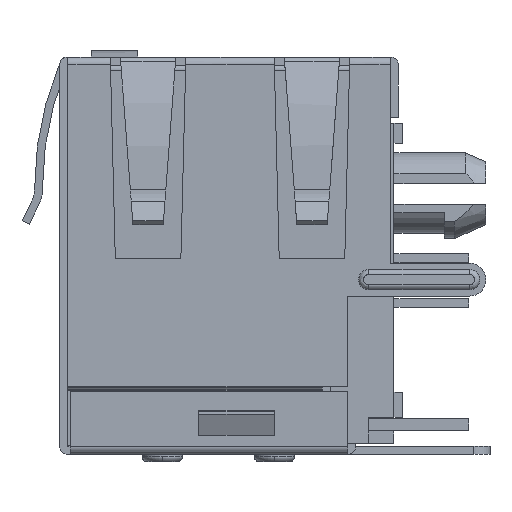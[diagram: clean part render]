
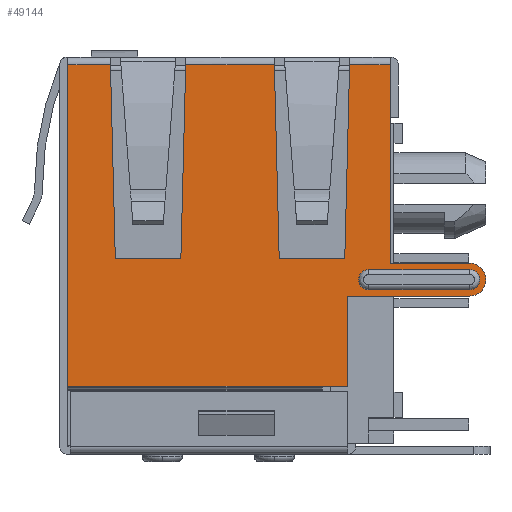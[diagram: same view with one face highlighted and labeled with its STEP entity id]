
A CAD part, left-side view. The second image highlights one B-rep face of the part: STEP entity #49144.
In plain terms, the highlighted planar face has unit normal (-1, 0, 0).
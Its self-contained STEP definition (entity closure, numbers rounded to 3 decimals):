
#318=CARTESIAN_POINT('',(-31.9,-3.,-8.51));
#319=DIRECTION('',(1.,0.,0.));
#320=DIRECTION('',(0.,0.,1.));
#321=AXIS2_PLACEMENT_3D('',#318,#319,#320);
#323=DIRECTION('',(0.,-0.025,-1.));
#324=VECTOR('',#323,7.702);
#325=CARTESIAN_POINT('',(-31.9,11.243,0.02));
#326=LINE('',#325,#324);
#327=DIRECTION('',(0.,-0.025,1.));
#328=VECTOR('',#327,7.702);
#329=CARTESIAN_POINT('',(-31.9,8.45,-7.68));
#330=LINE('',#329,#328);
#331=DIRECTION('',(0.,-0.025,-1.));
#332=VECTOR('',#331,7.702);
#333=CARTESIAN_POINT('',(-31.9,4.743,0.02));
#334=LINE('',#333,#332);
#335=DIRECTION('',(0.,-0.025,1.));
#336=VECTOR('',#335,7.702);
#337=CARTESIAN_POINT('',(-31.9,1.95,-7.68));
#338=LINE('',#337,#336);
#339=CARTESIAN_POINT('',(-31.9,-3.,-8.51));
#340=DIRECTION('',(-1.,0.,0.));
#341=DIRECTION('',(0.,0.,-1.));
#342=AXIS2_PLACEMENT_3D('',#339,#340,#341);
#344=CARTESIAN_POINT('',(-31.9,1.,-8.51));
#345=DIRECTION('',(-1.,0.,0.));
#346=DIRECTION('',(0.,0.,1.));
#347=AXIS2_PLACEMENT_3D('',#344,#345,#346);
#357=DIRECTION('',(0.,0.,1.));
#358=VECTOR('',#357,7.88);
#359=CARTESIAN_POINT('',(-31.9,0.15,-7.86));
#360=LINE('',#359,#358);
#1422=DIRECTION('',(0.,0.,-1.));
#1423=VECTOR('',#1422,12.763);
#1424=CARTESIAN_POINT('',(-31.9,12.93,0.02));
#1425=LINE('',#1424,#1423);
#1426=DIRECTION('',(0.,1.,0.));
#1427=VECTOR('',#1426,10.08);
#1428=CARTESIAN_POINT('',(-31.9,2.85,-12.743));
#1429=LINE('',#1428,#1427);
#1517=DIRECTION('',(0.,1.,0.));
#1518=VECTOR('',#1517,2.6);
#1519=CARTESIAN_POINT('',(-31.9,1.95,-7.68));
#1520=LINE('',#1519,#1518);
#1552=DIRECTION('',(0.,-1.,0.));
#1553=VECTOR('',#1552,3.515);
#1554=CARTESIAN_POINT('',(-31.9,8.258,0.02));
#1555=LINE('',#1554,#1553);
#1570=DIRECTION('',(0.,-1.,0.));
#1571=VECTOR('',#1570,2.6);
#1572=CARTESIAN_POINT('',(-31.9,11.05,-7.68));
#1573=LINE('',#1572,#1571);
#1594=DIRECTION('',(0.,-1.,0.));
#1595=VECTOR('',#1594,1.687);
#1596=CARTESIAN_POINT('',(-31.9,12.93,0.02));
#1597=LINE('',#1596,#1595);
#1793=DIRECTION('',(0.,-1.,0.));
#1794=VECTOR('',#1793,1.);
#1795=CARTESIAN_POINT('',(-31.9,2.85,-12.743));
#1796=LINE('',#1795,#1794);
#1805=DIRECTION('',(0.,0.,1.));
#1806=VECTOR('',#1805,3.583);
#1807=CARTESIAN_POINT('',(-31.9,1.85,-12.743));
#1808=LINE('',#1807,#1806);
#1813=DIRECTION('',(0.,-1.,0.));
#1814=VECTOR('',#1813,4.85);
#1815=CARTESIAN_POINT('',(-31.9,1.85,-9.16));
#1816=LINE('',#1815,#1814);
#1833=DIRECTION('',(0.,1.,0.));
#1834=VECTOR('',#1833,3.15);
#1835=CARTESIAN_POINT('',(-31.9,-3.,-7.86));
#1836=LINE('',#1835,#1834);
#36792=CARTESIAN_POINT('',(-31.9,1.757,0.02));
#36798=DIRECTION('',(0.,-1.,0.));
#36799=VECTOR('',#36798,1.607);
#36800=CARTESIAN_POINT('',(-31.9,1.757,0.02));
#36801=LINE('',#36800,#36799);
#36812=DIRECTION('',(0.,1.,0.));
#36813=VECTOR('',#36812,4.);
#36814=CARTESIAN_POINT('',(-31.9,-3.,-8.11));
#36815=LINE('',#36814,#36813);
#36834=DIRECTION('',(0.,-1.,0.));
#36835=VECTOR('',#36834,4.);
#36836=CARTESIAN_POINT('',(-31.9,1.,-8.91));
#36837=LINE('',#36836,#36835);
#37657=VERTEX_POINT('',#36792);
#37660=CARTESIAN_POINT('',(-31.9,0.15,0.02));
#37661=VERTEX_POINT('',#37660);
#38104=CARTESIAN_POINT('',(-31.9,0.15,-7.86));
#38105=VERTEX_POINT('',#38104);
#38106=CARTESIAN_POINT('',(-31.9,1.95,-7.68));
#38107=VERTEX_POINT('',#38106);
#38108=CARTESIAN_POINT('',(-31.9,4.55,-7.68));
#38109=VERTEX_POINT('',#38108);
#38110=CARTESIAN_POINT('',(-31.9,4.743,0.02));
#38111=VERTEX_POINT('',#38110);
#38112=CARTESIAN_POINT('',(-31.9,8.258,0.02));
#38113=VERTEX_POINT('',#38112);
#38114=CARTESIAN_POINT('',(-31.9,8.45,-7.68));
#38115=VERTEX_POINT('',#38114);
#38116=CARTESIAN_POINT('',(-31.9,11.05,-7.68));
#38117=VERTEX_POINT('',#38116);
#38118=CARTESIAN_POINT('',(-31.9,11.243,0.02));
#38119=VERTEX_POINT('',#38118);
#38120=CARTESIAN_POINT('',(-31.9,12.93,0.02));
#38121=VERTEX_POINT('',#38120);
#38122=CARTESIAN_POINT('',(-31.9,12.93,-12.743));
#38123=VERTEX_POINT('',#38122);
#38124=CARTESIAN_POINT('',(-31.9,2.85,-12.743));
#38125=VERTEX_POINT('',#38124);
#38126=CARTESIAN_POINT('',(-31.9,1.85,-12.743));
#38127=VERTEX_POINT('',#38126);
#38128=CARTESIAN_POINT('',(-31.9,1.85,-9.16));
#38129=VERTEX_POINT('',#38128);
#38130=CARTESIAN_POINT('',(-31.9,-3.,-9.16));
#38131=VERTEX_POINT('',#38130);
#38132=CARTESIAN_POINT('',(-31.9,-3.,-7.86));
#38133=VERTEX_POINT('',#38132);
#38134=CARTESIAN_POINT('',(-31.9,-3.,-8.91));
#38135=CARTESIAN_POINT('',(-31.9,-3.,-8.11));
#38136=VERTEX_POINT('',#38134);
#38137=VERTEX_POINT('',#38135);
#38138=CARTESIAN_POINT('',(-31.9,1.,-8.91));
#38139=VERTEX_POINT('',#38138);
#38140=CARTESIAN_POINT('',(-31.9,1.,-8.11));
#38141=VERTEX_POINT('',#38140);
#49094=CARTESIAN_POINT('',(-31.9,4.64,-6.362));
#49095=DIRECTION('',(1.,0.,0.));
#49096=DIRECTION('',(0.,0.,-1.));
#49097=AXIS2_PLACEMENT_3D('',#49094,#49095,#49096);
#49098=PLANE('',#49097);
#49100=ORIENTED_EDGE('',*,*,#49099,.F.);
#49102=ORIENTED_EDGE('',*,*,#49101,.F.);
#49104=ORIENTED_EDGE('',*,*,#49103,.T.);
#49106=ORIENTED_EDGE('',*,*,#49105,.F.);
#49108=ORIENTED_EDGE('',*,*,#49107,.F.);
#49110=ORIENTED_EDGE('',*,*,#49109,.F.);
#49112=ORIENTED_EDGE('',*,*,#49111,.T.);
#49114=ORIENTED_EDGE('',*,*,#49113,.F.);
#49116=ORIENTED_EDGE('',*,*,#49115,.T.);
#49118=ORIENTED_EDGE('',*,*,#49117,.T.);
#49120=ORIENTED_EDGE('',*,*,#49119,.T.);
#49122=ORIENTED_EDGE('',*,*,#49121,.T.);
#49124=ORIENTED_EDGE('',*,*,#49123,.T.);
#49126=ORIENTED_EDGE('',*,*,#49125,.T.);
#49128=ORIENTED_EDGE('',*,*,#49127,.F.);
#49129=ORIENTED_EDGE('',*,*,#49081,.T.);
#49131=ORIENTED_EDGE('',*,*,#49130,.T.);
#49132=EDGE_LOOP('',(#49100,#49102,#49104,#49106,#49108,#49110,#49112,#49114,
#49116,#49118,#49120,#49122,#49124,#49126,#49128,#49129,#49131));
#49133=FACE_OUTER_BOUND('',#49132,.F.);
#49135=ORIENTED_EDGE('',*,*,#49134,.T.);
#49137=ORIENTED_EDGE('',*,*,#49136,.T.);
#49139=ORIENTED_EDGE('',*,*,#49138,.T.);
#49141=ORIENTED_EDGE('',*,*,#49140,.T.);
#49142=EDGE_LOOP('',(#49135,#49137,#49139,#49141));
#49143=FACE_BOUND('',#49142,.F.);
#49144=ADVANCED_FACE('',(#49133,#49143),#49098,.F.);
#322=CIRCLE('',#321,0.65);
#343=CIRCLE('',#342,0.4);
#348=CIRCLE('',#347,0.4);
#49081=EDGE_CURVE('',#38107,#37657,#338,.T.);
#49099=EDGE_CURVE('',#38105,#37661,#360,.T.);
#49101=EDGE_CURVE('',#38133,#38105,#1836,.T.);
#49103=EDGE_CURVE('',#38133,#38131,#322,.T.);
#49105=EDGE_CURVE('',#38129,#38131,#1816,.T.);
#49107=EDGE_CURVE('',#38127,#38129,#1808,.T.);
#49109=EDGE_CURVE('',#38125,#38127,#1796,.T.);
#49111=EDGE_CURVE('',#38125,#38123,#1429,.T.);
#49113=EDGE_CURVE('',#38121,#38123,#1425,.T.);
#49115=EDGE_CURVE('',#38121,#38119,#1597,.T.);
#49117=EDGE_CURVE('',#38119,#38117,#326,.T.);
#49119=EDGE_CURVE('',#38117,#38115,#1573,.T.);
#49121=EDGE_CURVE('',#38115,#38113,#330,.T.);
#49123=EDGE_CURVE('',#38113,#38111,#1555,.T.);
#49125=EDGE_CURVE('',#38111,#38109,#334,.T.);
#49127=EDGE_CURVE('',#38107,#38109,#1520,.T.);
#49130=EDGE_CURVE('',#37657,#37661,#36801,.T.);
#49134=EDGE_CURVE('',#38136,#38137,#343,.T.);
#49136=EDGE_CURVE('',#38137,#38141,#36815,.T.);
#49138=EDGE_CURVE('',#38141,#38139,#348,.T.);
#49140=EDGE_CURVE('',#38139,#38136,#36837,.T.);
